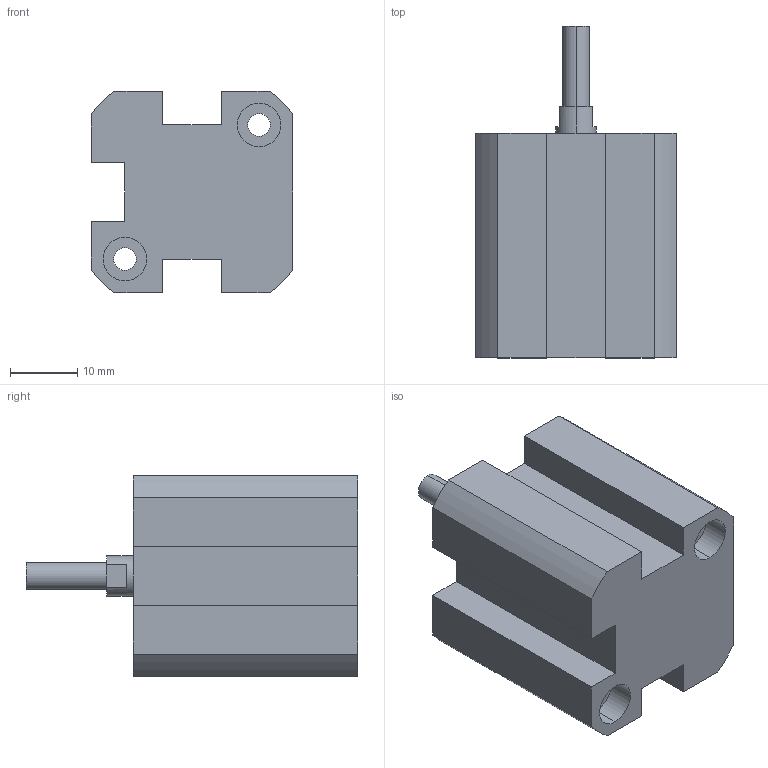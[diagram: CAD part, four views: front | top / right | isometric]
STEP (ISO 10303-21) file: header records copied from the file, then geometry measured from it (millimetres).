
FILE_DESCRIPTION (( 'STEP AP203' ), '1' );
FILE_NAME ('XC#M2-16D-10.STEP', '2016-05-23T08:43:09', ( '' ), ( '' ), 'SwSTEP 2.0', 'SolidWorks 2014', '' );
FILE_SCHEMA (( 'CONFIG_CONTROL_DESIGN' ));
Length unit declared in the file: millimetre
Products named in the file (1): XC#M2-16D-10
Bounding box: 30 x 49.5 x 30 mm (x, y, z)
Volume: 23644.3 mm3; surface area: 7837.5 mm2
Topology: 1 solids, 1 shells, 76 faces, 187 edges, 121 vertices
Faces by surface type: cylinder 39, plane 33, cone 4
Entity records: 2331 total; most frequent: DIRECTION 420, CARTESIAN_POINT 381, ORIENTED_EDGE 366, EDGE_CURVE 183, AXIS2_PLACEMENT_3D 160, VERTEX_POINT 121, LINE 100, VECTOR 100
